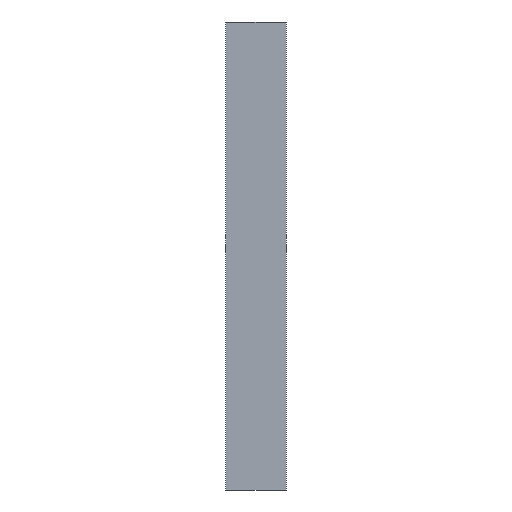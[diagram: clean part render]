
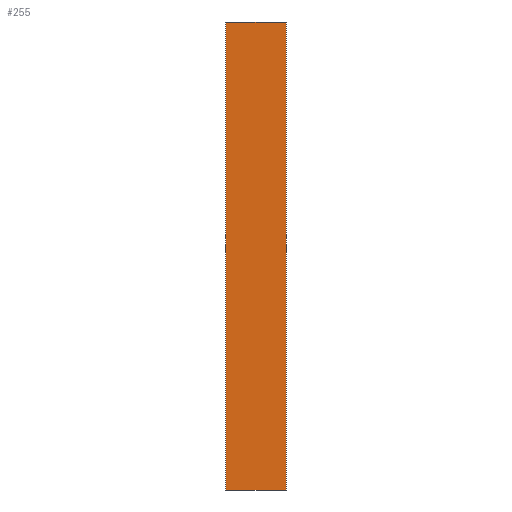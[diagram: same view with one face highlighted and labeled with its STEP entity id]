
A CAD part, front view. The second image highlights one B-rep face of the part: STEP entity #255.
In plain terms, the highlighted planar face has unit normal (0, -1, 0).
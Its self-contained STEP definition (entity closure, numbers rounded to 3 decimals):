
#39 = EDGE_CURVE('',#40,#42,#44,.T.);
#40 = VERTEX_POINT('',#41);
#41 = CARTESIAN_POINT('',(-2.,-0.065,-15.5));
#42 = VERTEX_POINT('',#43);
#43 = CARTESIAN_POINT('',(-2.,-0.065,15.5));
#44 = SURFACE_CURVE('',#45,(#49,#61),.PCURVE_S1.);
#45 = LINE('',#46,#47);
#46 = CARTESIAN_POINT('',(-2.,-0.065,-15.5));
#47 = VECTOR('',#48,1.);
#48 = DIRECTION('',(0.,0.,1.));
#49 = PCURVE('',#50,#55);
#50 = PLANE('',#51);
#51 = AXIS2_PLACEMENT_3D('',#52,#53,#54);
#52 = CARTESIAN_POINT('',(-2.,-0.065,-15.5));
#53 = DIRECTION('',(1.,0.,-0.));
#54 = DIRECTION('',(0.,0.,1.));
#55 = DEFINITIONAL_REPRESENTATION('',(#56),#60);
#56 = LINE('',#57,#58);
#57 = CARTESIAN_POINT('',(0.,0.));
#58 = VECTOR('',#59,1.);
#59 = DIRECTION('',(1.,0.));
#60 = ( GEOMETRIC_REPRESENTATION_CONTEXT(2) 
PARAMETRIC_REPRESENTATION_CONTEXT() REPRESENTATION_CONTEXT('2D SPACE',''
  ) );
#61 = PCURVE('',#62,#67);
#62 = PLANE('',#63);
#63 = AXIS2_PLACEMENT_3D('',#64,#65,#66);
#64 = CARTESIAN_POINT('',(-2.,-0.065,-15.5));
#65 = DIRECTION('',(-0.,1.,0.));
#66 = DIRECTION('',(0.,0.,1.));
#67 = DEFINITIONAL_REPRESENTATION('',(#68),#72);
#68 = LINE('',#69,#70);
#69 = CARTESIAN_POINT('',(0.,0.));
#70 = VECTOR('',#71,1.);
#71 = DIRECTION('',(1.,0.));
#72 = ( GEOMETRIC_REPRESENTATION_CONTEXT(2) 
PARAMETRIC_REPRESENTATION_CONTEXT() REPRESENTATION_CONTEXT('2D SPACE',''
  ) );
#90 = PLANE('',#91);
#91 = AXIS2_PLACEMENT_3D('',#92,#93,#94);
#92 = CARTESIAN_POINT('',(-2.,-0.065,-15.5));
#93 = DIRECTION('',(0.,0.,1.));
#94 = DIRECTION('',(1.,0.,-0.));
#144 = PLANE('',#145);
#145 = AXIS2_PLACEMENT_3D('',#146,#147,#148);
#146 = CARTESIAN_POINT('',(-2.,-0.065,15.5));
#147 = DIRECTION('',(0.,0.,1.));
#148 = DIRECTION('',(1.,0.,-0.));
#159 = EDGE_CURVE('',#160,#162,#164,.T.);
#160 = VERTEX_POINT('',#161);
#161 = CARTESIAN_POINT('',(2.,-0.065,-15.5));
#162 = VERTEX_POINT('',#163);
#163 = CARTESIAN_POINT('',(2.,-0.065,15.5));
#164 = SURFACE_CURVE('',#165,(#169,#181),.PCURVE_S1.);
#165 = LINE('',#166,#167);
#166 = CARTESIAN_POINT('',(2.,-0.065,-15.5));
#167 = VECTOR('',#168,1.);
#168 = DIRECTION('',(0.,0.,1.));
#169 = PCURVE('',#170,#175);
#170 = PLANE('',#171);
#171 = AXIS2_PLACEMENT_3D('',#172,#173,#174);
#172 = CARTESIAN_POINT('',(2.,-0.065,-15.5));
#173 = DIRECTION('',(1.,0.,-0.));
#174 = DIRECTION('',(0.,0.,1.));
#175 = DEFINITIONAL_REPRESENTATION('',(#176),#180);
#176 = LINE('',#177,#178);
#177 = CARTESIAN_POINT('',(0.,0.));
#178 = VECTOR('',#179,1.);
#179 = DIRECTION('',(1.,0.));
#180 = ( GEOMETRIC_REPRESENTATION_CONTEXT(2) 
PARAMETRIC_REPRESENTATION_CONTEXT() REPRESENTATION_CONTEXT('2D SPACE',''
  ) );
#181 = PCURVE('',#62,#182);
#182 = DEFINITIONAL_REPRESENTATION('',(#183),#187);
#183 = LINE('',#184,#185);
#184 = CARTESIAN_POINT('',(0.,4.));
#185 = VECTOR('',#186,1.);
#186 = DIRECTION('',(1.,0.));
#187 = ( GEOMETRIC_REPRESENTATION_CONTEXT(2) 
PARAMETRIC_REPRESENTATION_CONTEXT() REPRESENTATION_CONTEXT('2D SPACE',''
  ) );
#255 = ADVANCED_FACE('',(#256),#62,.F.);
#256 = FACE_BOUND('',#257,.F.);
#257 = EDGE_LOOP('',(#258,#279,#280,#301));
#258 = ORIENTED_EDGE('',*,*,#259,.F.);
#259 = EDGE_CURVE('',#40,#160,#260,.T.);
#260 = SURFACE_CURVE('',#261,(#265,#272),.PCURVE_S1.);
#261 = LINE('',#262,#263);
#262 = CARTESIAN_POINT('',(-2.,-0.065,-15.5));
#263 = VECTOR('',#264,1.);
#264 = DIRECTION('',(1.,0.,-0.));
#265 = PCURVE('',#62,#266);
#266 = DEFINITIONAL_REPRESENTATION('',(#267),#271);
#267 = LINE('',#268,#269);
#268 = CARTESIAN_POINT('',(0.,0.));
#269 = VECTOR('',#270,1.);
#270 = DIRECTION('',(0.,1.));
#271 = ( GEOMETRIC_REPRESENTATION_CONTEXT(2) 
PARAMETRIC_REPRESENTATION_CONTEXT() REPRESENTATION_CONTEXT('2D SPACE',''
  ) );
#272 = PCURVE('',#90,#273);
#273 = DEFINITIONAL_REPRESENTATION('',(#274),#278);
#274 = LINE('',#275,#276);
#275 = CARTESIAN_POINT('',(0.,0.));
#276 = VECTOR('',#277,1.);
#277 = DIRECTION('',(1.,0.));
#278 = ( GEOMETRIC_REPRESENTATION_CONTEXT(2) 
PARAMETRIC_REPRESENTATION_CONTEXT() REPRESENTATION_CONTEXT('2D SPACE',''
  ) );
#279 = ORIENTED_EDGE('',*,*,#39,.T.);
#280 = ORIENTED_EDGE('',*,*,#281,.T.);
#281 = EDGE_CURVE('',#42,#162,#282,.T.);
#282 = SURFACE_CURVE('',#283,(#287,#294),.PCURVE_S1.);
#283 = LINE('',#284,#285);
#284 = CARTESIAN_POINT('',(-2.,-0.065,15.5));
#285 = VECTOR('',#286,1.);
#286 = DIRECTION('',(1.,0.,-0.));
#287 = PCURVE('',#62,#288);
#288 = DEFINITIONAL_REPRESENTATION('',(#289),#293);
#289 = LINE('',#290,#291);
#290 = CARTESIAN_POINT('',(31.,0.));
#291 = VECTOR('',#292,1.);
#292 = DIRECTION('',(0.,1.));
#293 = ( GEOMETRIC_REPRESENTATION_CONTEXT(2) 
PARAMETRIC_REPRESENTATION_CONTEXT() REPRESENTATION_CONTEXT('2D SPACE',''
  ) );
#294 = PCURVE('',#144,#295);
#295 = DEFINITIONAL_REPRESENTATION('',(#296),#300);
#296 = LINE('',#297,#298);
#297 = CARTESIAN_POINT('',(0.,0.));
#298 = VECTOR('',#299,1.);
#299 = DIRECTION('',(1.,0.));
#300 = ( GEOMETRIC_REPRESENTATION_CONTEXT(2) 
PARAMETRIC_REPRESENTATION_CONTEXT() REPRESENTATION_CONTEXT('2D SPACE',''
  ) );
#301 = ORIENTED_EDGE('',*,*,#159,.F.);
